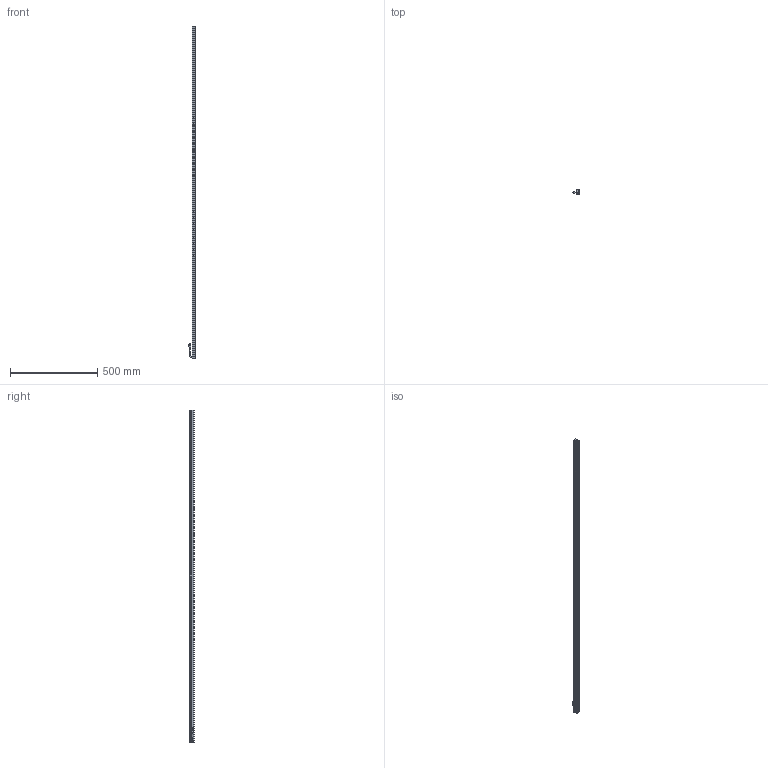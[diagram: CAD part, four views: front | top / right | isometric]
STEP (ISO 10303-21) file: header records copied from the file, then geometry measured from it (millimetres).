
FILE_DESCRIPTION (( 'STEP AP203' ), '1' );
FILE_NAME ('CK-BL190218.STEP', '2025-12-27T02:56:28', ( '' ), ( '' ), 'SwSTEP 2.0', 'SolidWorks 2022', '' );
FILE_SCHEMA (( 'CONFIG_CONTROL_DESIGN' ));
Length unit declared in the file: millimetre
Products named in the file (6): CK-BL190218-002A; CK-BL190218; CK-BL190218-003A; 十字沉头螺丝 M2x10; 光源线-01; CK-BL190218-001A
Assembly tree (9 placements, depth 2):
  CK-BL190218
    CK-BL190218-001A
    CK-BL190218-002A  x2
    CK-BL190218-003A
    光源线-01
    十字沉头螺丝 M2x10  x4
Bounding box: 37.34 x 27 x 1902 mm (x, y, z)
Volume: 416322.5 mm3; surface area: 411124 mm2
Topology: 11 solids, 11 shells, 474 faces, 1231 edges, 780 vertices
Faces by surface type: plane 271, cylinder 149, cone 34, bspline 20
Entity records: 12442 total; most frequent: CARTESIAN_POINT 2514, ORIENTED_EDGE 1936, DIRECTION 1916, EDGE_CURVE 968, LINE 668, VECTOR 668, VERTEX_POINT 626, AXIS2_PLACEMENT_3D 624
